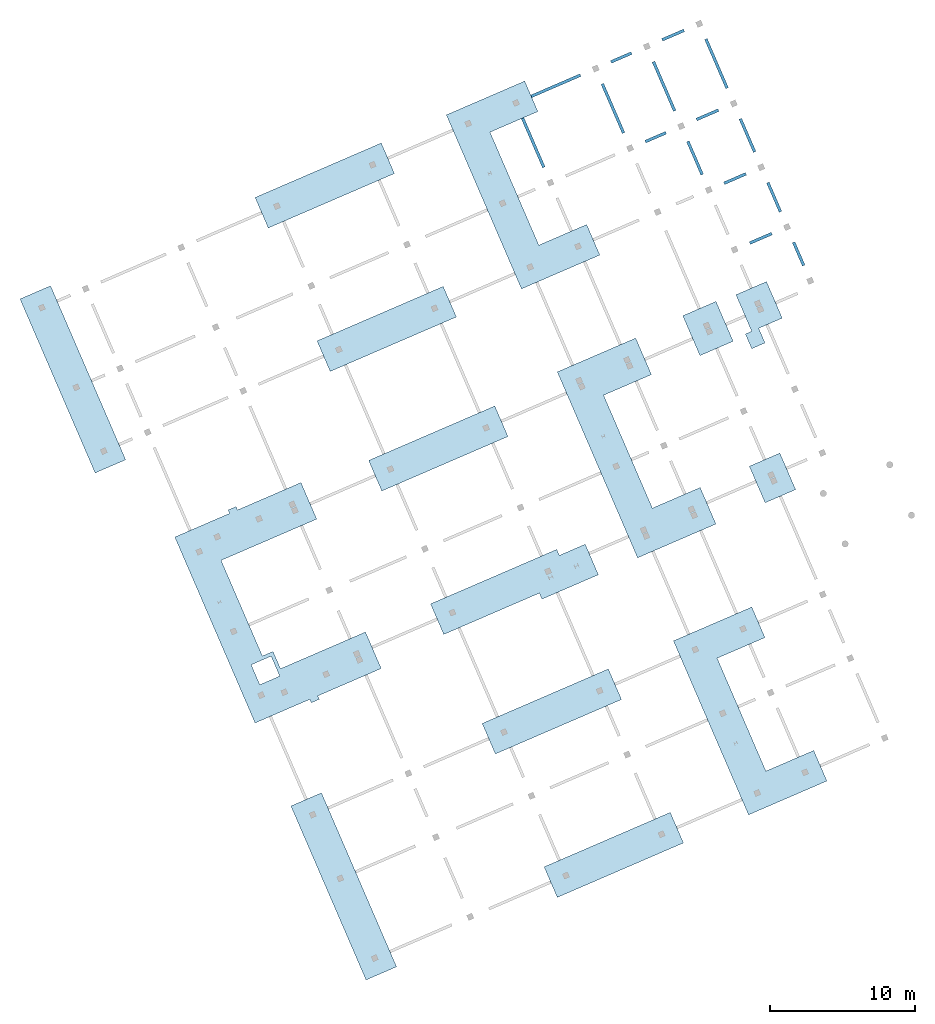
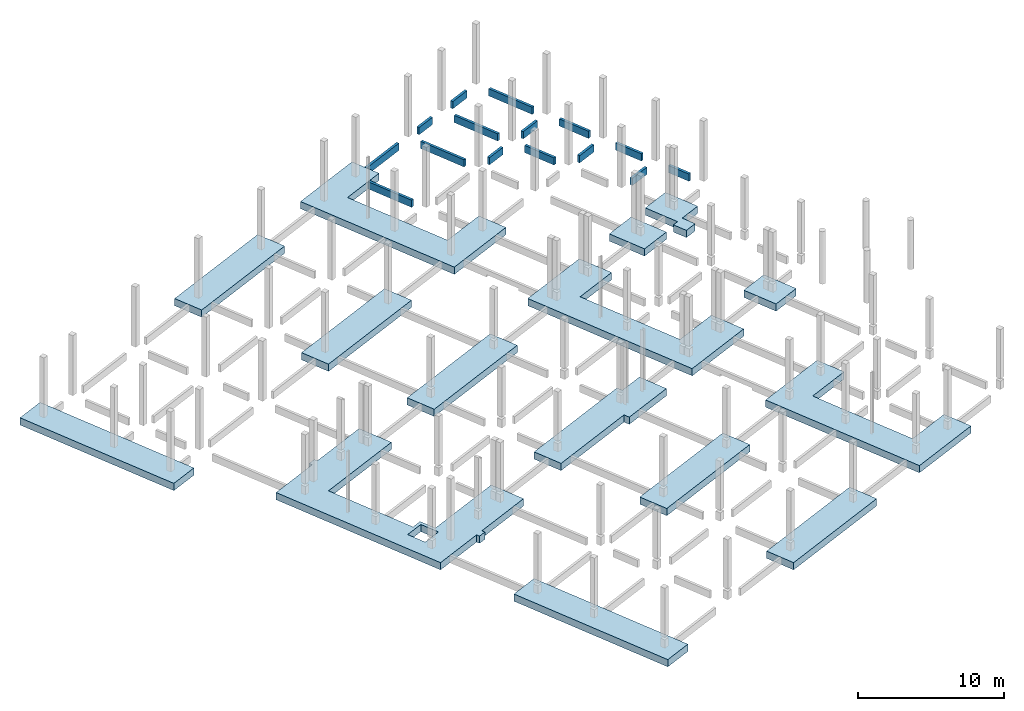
# One storey, part 11 of 11: 15 beams, 15 slabs, 1 opening.
"""IFC4 building model written with IfcOpenShell, lengths in metres."""

from ifc_helpers import new_model, entity, si_unit, converted_unit, derived_unit, direction, frame, origin, place, context, subcontext, project, spatial, indexed_curve, outline, extrude, source, transform, mapped, material, type_object, type_shapes, element, save


model = new_model("IFC4")

# Units and contexts
model_context = context("Model", 3, precision=1e-05, world=origin(), true_north=direction((6.12323399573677e-17, 1.0)))
body_context = subcontext(model_context, "Body", "Model", "MODEL_VIEW")
ifc_project = project(units=[si_unit("LENGTHUNIT", "METRE"), si_unit("AREAUNIT", "SQUARE_METRE"), si_unit("VOLUMEUNIT", "CUBIC_METRE"), converted_unit("PLANEANGLEUNIT", "DEGREE", entity("IfcPlaneAngleMeasure", 0.0174532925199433), si_unit("PLANEANGLEUNIT", "RADIAN"), dimensions=[0, 0, 0, 0, 0, 0, 0]), si_unit("MASSUNIT", "GRAM", prefix="KILO"), derived_unit("MOMENTOFINERTIAUNIT", [(si_unit("LENGTHUNIT", "METRE"), 4)]), derived_unit("LINEARFORCEUNIT", [(si_unit("MASSUNIT", "GRAM", prefix="KILO"), 1), (si_unit("TIMEUNIT", "SECOND"), -2)]), derived_unit("WARPINGCONSTANTUNIT", [(si_unit("LENGTHUNIT", "METRE"), 6)]), derived_unit("THERMALTRANSMITTANCEUNIT", [(si_unit("MASSUNIT", "GRAM", prefix="KILO"), 1), (si_unit("THERMODYNAMICTEMPERATUREUNIT", "KELVIN"), -1), (si_unit("TIMEUNIT", "SECOND"), -3)]), derived_unit("USERDEFINED", [(si_unit("MASSUNIT", "GRAM", prefix="KILO"), 1), (si_unit("TIMEUNIT", "SECOND"), -2), (si_unit("THERMODYNAMICTEMPERATUREUNIT", "KELVIN"), -1)]), derived_unit("THERMALRESISTANCEUNIT", [(si_unit("MASSUNIT", "GRAM", prefix="KILO"), -1), (si_unit("TIMEUNIT", "SECOND"), 3), (si_unit("THERMODYNAMICTEMPERATUREUNIT", "KELVIN"), 1)])], contexts=[model_context])

# Site, building, storey
site_placement = place(None, origin())
site = spatial("IfcSite", under=ifc_project, at=site_placement, Name="Default", CompositionType="ELEMENT")
building_placement = place(site_placement, frame((12.6613425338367, -82.5732315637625, 317.15), z_axis=(0.0, 0.0, 1.0), x_axis=(-0.396377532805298, 0.918087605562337, 0.0)))
building = spatial("IfcBuilding", under=site, at=building_placement, Name="CESFAM Coyhaique", CompositionType="ELEMENT")
storey_placement = place(building_placement, frame((0.0, 0.0, -0.950000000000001)))
storey = spatial("IfcBuildingStorey", under=building, at=storey_placement, Name="d_Fundaciones", CompositionType="ELEMENT", Elevation=-0.950000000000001)

# Beams
ifc_material = material(Name="HA")
beam_type_1 = type_object("IfcBeamType", Name="M_Concrete-Rectangular Beam:200 x 600mm", PredefinedType="BEAM", material=ifc_material)
shared_shape_1 = source(origin(), body_context, "Body", "SweptSolid", [
    extrude(outline(indexed_curve([(-0.3, -0.100000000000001), (0.3, -0.100000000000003), (0.3, 0.100000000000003), (-0.3, 0.100000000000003), (-0.3, -0.100000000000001)], self_intersect=False)), frame((49.7188534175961, -15.1971495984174, -1.25), z_axis=(1.0, 0.0, 0.0), x_axis=(0.0, 0.0, -1.0)), (0.0, 0.0, 1.0), 3.70437393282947),
])
type_shapes(beam_type_1, [shared_shape_1])
beam_1_placement = place(storey_placement, frame((0.0, 0.0, 0.950000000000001)))
element("IfcBeam", 1, at=beam_1_placement, inside=storey, type_object=beam_type_1, Name="M_Concrete-Rectangular Beam:200 x 600mm", ObjectType="M_Concrete-Rectangular Beam:200 x 600mm", PredefinedType="BEAM", context=body_context, shape_type="MappedRepresentation", body=[
    mapped(shared_shape_1, transform((0.0, 0.0, 0.0), scale=1.0)),
])
beam_type_2 = type_object("IfcBeamType", Name="M_Concrete-Rectangular Beam:200 x 600mm", PredefinedType="BEAM", material=ifc_material)
shared_shape_2 = source(origin(), body_context, "Body", "SweptSolid", [
    extrude(outline(indexed_curve([(-0.0999999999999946, -0.3), (0.100000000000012, -0.3), (0.100000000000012, 0.3), (-0.0999999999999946, 0.3), (-0.0999999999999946, -0.3)], self_intersect=False)), frame((54.5688534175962, -16.3471495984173, -1.25), z_axis=(0.0, -1.0, 0.0), x_axis=(-1.0, 0.0, 0.0)), (0.0, 0.0, 1.0), 3.69999999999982),
])
type_shapes(beam_type_2, [shared_shape_2])
beam_2_placement = place(storey_placement, frame((0.0, 0.0, 0.950000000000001)))
element("IfcBeam", 2, at=beam_2_placement, inside=storey, type_object=beam_type_2, Name="M_Concrete-Rectangular Beam:200 x 600mm", ObjectType="M_Concrete-Rectangular Beam:200 x 600mm", PredefinedType="BEAM", context=body_context, shape_type="MappedRepresentation", body=[
    mapped(shared_shape_2, transform((0.0, 0.0, 0.0), scale=1.0)),
])
beam_type_3 = type_object("IfcBeamType", Name="M_Concrete-Rectangular Beam:200 x 600mm", PredefinedType="BEAM", material=ifc_material)
shared_shape_3 = source(origin(), body_context, "Body", "SweptSolid", [
    extrude(outline(indexed_curve([(-0.3, -0.0999999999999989), (0.3, -0.100000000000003), (0.3, 0.100000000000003), (-0.3, 0.100000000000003), (-0.3, -0.0999999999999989)], self_intersect=False)), frame((49.7188534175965, -21.1971495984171, -1.25), z_axis=(1.0, 0.0, 0.0), x_axis=(0.0, 0.0, -1.0)), (0.0, 0.0, 1.0), 3.70000000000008),
])
type_shapes(beam_type_3, [shared_shape_3])
beam_3_placement = place(storey_placement, frame((0.0, 0.0, 0.950000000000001)))
element("IfcBeam", 3, at=beam_3_placement, inside=storey, type_object=beam_type_3, Name="M_Concrete-Rectangular Beam:200 x 600mm", ObjectType="M_Concrete-Rectangular Beam:200 x 600mm", PredefinedType="BEAM", context=body_context, shape_type="MappedRepresentation", body=[
    mapped(shared_shape_3, transform((0.0, 0.0, 0.0), scale=1.0)),
])
beam_type_4 = type_object("IfcBeamType", Name="M_Concrete-Rectangular Beam:200 x 600mm", PredefinedType="BEAM", material=ifc_material)
shared_shape_4 = source(origin(), body_context, "Body", "SweptSolid", [
    extrude(outline(indexed_curve([(-0.0999999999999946, -0.3), (0.100000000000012, -0.3), (0.100000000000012, 0.3), (-0.0999999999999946, 0.3), (-0.0999999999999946, -0.3)], self_intersect=False)), frame((48.5688534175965, -22.3471495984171, -1.25), z_axis=(0.0, -1.0, 0.0), x_axis=(-1.0, 0.0, 0.0)), (0.0, 0.0, 1.0), 1.55000000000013),
])
type_shapes(beam_type_4, [shared_shape_4])
beam_4_placement = place(storey_placement, frame((0.0, 0.0, 0.950000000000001)))
element("IfcBeam", 4, at=beam_4_placement, inside=storey, type_object=beam_type_4, Name="M_Concrete-Rectangular Beam:200 x 600mm", ObjectType="M_Concrete-Rectangular Beam:200 x 600mm", PredefinedType="BEAM", context=body_context, shape_type="MappedRepresentation", body=[
    mapped(shared_shape_4, transform((0.0, 0.0, 0.0), scale=1.0)),
])
beam_type_5 = type_object("IfcBeamType", Name="M_Concrete-Rectangular Beam:200 x 600mm", PredefinedType="BEAM", material=ifc_material)
shared_shape_5 = source(origin(), body_context, "Body", "SweptSolid", [
    extrude(outline(indexed_curve([(-0.0999999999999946, -0.3), (0.100000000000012, -0.3), (0.100000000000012, 0.3), (-0.0999999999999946, 0.3), (-0.0999999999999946, -0.3)], self_intersect=False)), frame((54.5688534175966, -22.3471495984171, -1.25), z_axis=(0.0, -1.0, 0.0), x_axis=(-1.0, 0.0, 0.0)), (0.0, 0.0, 1.0), 1.55000000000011),
])
type_shapes(beam_type_5, [shared_shape_5])
beam_5_placement = place(storey_placement, frame((0.0, 0.0, 0.950000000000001)))
element("IfcBeam", 5, at=beam_5_placement, inside=storey, type_object=beam_type_5, Name="M_Concrete-Rectangular Beam:200 x 600mm", ObjectType="M_Concrete-Rectangular Beam:200 x 600mm", PredefinedType="BEAM", context=body_context, shape_type="MappedRepresentation", body=[
    mapped(shared_shape_5, transform((0.0, 0.0, 0.0), scale=1.0)),
])
beam_type_6 = type_object("IfcBeamType", Name="M_Concrete-Rectangular Beam:200 x 600mm", PredefinedType="BEAM", material=ifc_material)
shared_shape_6 = source(origin(), body_context, "Body", "SweptSolid", [
    extrude(outline(indexed_curve([(-0.3, -0.0999999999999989), (0.3, -0.0999999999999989), (0.3, 0.100000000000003), (-0.3, 0.100000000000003), (-0.3, -0.0999999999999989)], self_intersect=False)), frame((44.9188534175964, -25.0471495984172, -1.25), z_axis=(1.0, 0.0, 0.0), x_axis=(0.0, 0.0, -1.0)), (0.0, 0.0, 1.0), 2.50000000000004),
])
type_shapes(beam_type_6, [shared_shape_6])
beam_6_placement = place(storey_placement, frame((0.0, 0.0, 0.950000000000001)))
element("IfcBeam", 6, at=beam_6_placement, inside=storey, type_object=beam_type_6, Name="M_Concrete-Rectangular Beam:200 x 600mm", ObjectType="M_Concrete-Rectangular Beam:200 x 600mm", PredefinedType="BEAM", context=body_context, shape_type="MappedRepresentation", body=[
    mapped(shared_shape_6, transform((0.0, 0.0, 0.0), scale=1.0)),
])
beam_type_7 = type_object("IfcBeamType", Name="M_Concrete-Rectangular Beam:200 x 600mm", PredefinedType="BEAM", material=ifc_material)
shared_shape_7 = source(origin(), body_context, "Body", "SweptSolid", [
    extrude(outline(indexed_curve([(-0.3, -0.0999999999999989), (0.3, -0.100000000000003), (0.3, 0.100000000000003), (-0.3, 0.100000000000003), (-0.3, -0.0999999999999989)], self_intersect=False)), frame((49.7188534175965, -25.0471495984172, -1.25), z_axis=(1.0, 0.0, 0.0), x_axis=(0.0, 0.0, -1.0)), (0.0, 0.0, 1.0), 3.70000000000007),
])
type_shapes(beam_type_7, [shared_shape_7])
beam_7_placement = place(storey_placement, frame((0.0, 0.0, 0.950000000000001)))
element("IfcBeam", 7, at=beam_7_placement, inside=storey, type_object=beam_type_7, Name="M_Concrete-Rectangular Beam:200 x 600mm", ObjectType="M_Concrete-Rectangular Beam:200 x 600mm", PredefinedType="BEAM", context=body_context, shape_type="MappedRepresentation", body=[
    mapped(shared_shape_7, transform((0.0, 0.0, 0.0), scale=1.0)),
])
beam_type_8 = type_object("IfcBeamType", Name="M_Concrete-Rectangular Beam:200 x 600mm", PredefinedType="BEAM", material=ifc_material)
shared_shape_8 = source(origin(), body_context, "Body", "SweptSolid", [
    extrude(outline(indexed_curve([(-0.100000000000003, -0.3), (0.100000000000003, -0.3), (0.100000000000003, 0.3), (-0.100000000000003, 0.3), (-0.100000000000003, -0.3)], self_intersect=False)), frame((54.5688534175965, -26.1971495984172, -1.25), z_axis=(0.0, -1.0, 0.0), x_axis=(-1.0, 0.0, 0.0)), (0.0, 0.0, 1.0), 1.65000000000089),
])
type_shapes(beam_type_8, [shared_shape_8])
beam_8_placement = place(storey_placement, frame((0.0, 0.0, 0.950000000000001)))
element("IfcBeam", 8, at=beam_8_placement, inside=storey, type_object=beam_type_8, Name="M_Concrete-Rectangular Beam:200 x 600mm", ObjectType="M_Concrete-Rectangular Beam:200 x 600mm", PredefinedType="BEAM", context=body_context, shape_type="MappedRepresentation", body=[
    mapped(shared_shape_8, transform((0.0, 0.0, 0.0), scale=1.0)),
])
beam_type_9 = type_object("IfcBeamType", Name="M_Concrete-Rectangular Beam:200 x 600mm", PredefinedType="BEAM", material=ifc_material)
shared_shape_9 = source(origin(), body_context, "Body", "SweptSolid", [
    extrude(outline(indexed_curve([(-0.0999999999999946, -0.3), (0.100000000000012, -0.3), (0.100000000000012, 0.3), (-0.0999999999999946, 0.3), (-0.0999999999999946, -0.3)], self_intersect=False)), frame((48.5688534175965, -26.1971495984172, -1.25), z_axis=(0.0, -1.0, 0.0), x_axis=(-1.0, 0.0, 0.0)), (0.0, 0.0, 1.0), 1.65000000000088),
])
type_shapes(beam_type_9, [shared_shape_9])
beam_9_placement = place(storey_placement, frame((0.0, 0.0, 0.950000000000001)))
element("IfcBeam", 9, at=beam_9_placement, inside=storey, type_object=beam_type_9, Name="M_Concrete-Rectangular Beam:200 x 600mm", ObjectType="M_Concrete-Rectangular Beam:200 x 600mm", PredefinedType="BEAM", context=body_context, shape_type="MappedRepresentation", body=[
    mapped(shared_shape_9, transform((0.0, 0.0, 0.0), scale=1.0)),
])
beam_type_10 = type_object("IfcBeamType", Name="M_Concrete-Rectangular Beam:200 x 600mm", PredefinedType="BEAM", material=ifc_material)
shared_shape_10 = source(origin(), body_context, "Body", "SweptSolid", [
    extrude(outline(indexed_curve([(-0.3, -0.0999999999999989), (0.3, -0.100000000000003), (0.3, 0.100000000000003), (-0.3, 0.100000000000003), (-0.3, -0.0999999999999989)], self_intersect=False)), frame((49.7188534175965, -28.9971495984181, -1.25), z_axis=(1.0, 0.0, 0.0), x_axis=(0.0, 0.0, -1.0)), (0.0, 0.0, 1.0), 3.70000000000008),
])
type_shapes(beam_type_10, [shared_shape_10])
beam_10_placement = place(storey_placement, frame((0.0, 0.0, 0.950000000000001)))
element("IfcBeam", 10, at=beam_10_placement, inside=storey, type_object=beam_type_10, Name="M_Concrete-Rectangular Beam:200 x 600mm", ObjectType="M_Concrete-Rectangular Beam:200 x 600mm", PredefinedType="BEAM", context=body_context, shape_type="MappedRepresentation", body=[
    mapped(shared_shape_10, transform((0.0, 0.0, 0.0), scale=1.0)),
])
beam_type_11 = type_object("IfcBeamType", Name="M_Concrete-Rectangular Beam:200 x 600mm", PredefinedType="BEAM", material=ifc_material)
shared_shape_11 = source(origin(), body_context, "Body", "SweptSolid", [
    extrude(outline(indexed_curve([(-0.0999999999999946, -0.3), (0.100000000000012, -0.3), (0.100000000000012, 0.3), (-0.0999999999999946, 0.3), (-0.0999999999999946, -0.3)], self_intersect=False)), frame((43.7688534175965, -26.1971495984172, -1.25), z_axis=(0.0, -1.0, 0.0), x_axis=(-1.0, 0.0, 0.0)), (0.0, 0.0, 1.0), 1.65000000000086),
])
type_shapes(beam_type_11, [shared_shape_11])
beam_11_placement = place(storey_placement, frame((0.0, 0.0, 0.950000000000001)))
element("IfcBeam", 11, at=beam_11_placement, inside=storey, type_object=beam_type_11, Name="M_Concrete-Rectangular Beam:200 x 600mm", ObjectType="M_Concrete-Rectangular Beam:200 x 600mm", PredefinedType="BEAM", context=body_context, shape_type="MappedRepresentation", body=[
    mapped(shared_shape_11, transform((0.0, 0.0, 0.0), scale=1.0)),
])
beam_type_12 = type_object("IfcBeamType", Name="M_Concrete-Rectangular Beam:200 x 600mm", PredefinedType="BEAM", material=ifc_material)
shared_shape_12 = source(origin(), body_context, "Body", "SweptSolid", [
    extrude(outline(indexed_curve([(-0.3, -0.0999999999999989), (0.3, -0.0999999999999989), (0.3, 0.100000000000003), (-0.3, 0.100000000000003), (-0.3, -0.0999999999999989)], self_intersect=False)), frame((44.9188534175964, -28.9971495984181, -1.25), z_axis=(1.0, 0.0, 0.0), x_axis=(0.0, 0.0, -1.0)), (0.0, 0.0, 1.0), 2.50000000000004),
])
type_shapes(beam_type_12, [shared_shape_12])
beam_12_placement = place(storey_placement, frame((0.0, 0.0, 0.950000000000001)))
element("IfcBeam", 12, at=beam_12_placement, inside=storey, type_object=beam_type_12, Name="M_Concrete-Rectangular Beam:200 x 600mm", ObjectType="M_Concrete-Rectangular Beam:200 x 600mm", PredefinedType="BEAM", context=body_context, shape_type="MappedRepresentation", body=[
    mapped(shared_shape_12, transform((0.0, 0.0, 0.0), scale=1.0)),
])
beam_type_13 = type_object("IfcBeamType", Name="M_Concrete-Rectangular Beam:200 x 600mm", PredefinedType="BEAM", material=ifc_material)
shared_shape_13 = source(origin(), body_context, "Body", "SweptSolid", [
    extrude(outline(indexed_curve([(-0.0999999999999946, -0.3), (0.100000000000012, -0.3), (0.100000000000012, 0.3), (-0.0999999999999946, 0.3), (-0.0999999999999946, -0.3)], self_intersect=False)), frame((39.2688534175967, -26.1971495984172, -1.25), z_axis=(0.0, -1.0, 0.0), x_axis=(-1.0, 0.0, 0.0)), (0.0, 0.0, 1.0), 1.65000000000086),
])
type_shapes(beam_type_13, [shared_shape_13])
beam_13_placement = place(storey_placement, frame((0.0, 0.0, 0.950000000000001)))
element("IfcBeam", 13, at=beam_13_placement, inside=storey, type_object=beam_type_13, Name="M_Concrete-Rectangular Beam:200 x 600mm", ObjectType="M_Concrete-Rectangular Beam:200 x 600mm", PredefinedType="BEAM", context=body_context, shape_type="MappedRepresentation", body=[
    mapped(shared_shape_13, transform((0.0, 0.0, 0.0), scale=1.0)),
])
beam_type_14 = type_object("IfcBeamType", Name="M_Concrete-Rectangular Beam:200 x 600mm", PredefinedType="BEAM", material=ifc_material)
shared_shape_14 = source(origin(), body_context, "Body", "SweptSolid", [
    extrude(outline(indexed_curve([(-0.3, -0.0999999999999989), (0.3, -0.100000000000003), (0.3, 0.100000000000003), (-0.3, 0.100000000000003), (-0.3, -0.0999999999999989)], self_intersect=False)), frame((36.3688534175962, -28.997149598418, -1.25), z_axis=(1.0, 0.0, 0.0), x_axis=(0.0, 0.0, -1.0)), (0.0, 0.0, 1.0), 1.7500000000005),
])
type_shapes(beam_type_14, [shared_shape_14])
beam_14_placement = place(storey_placement, frame((0.0, 0.0, 0.950000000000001)))
element("IfcBeam", 14, at=beam_14_placement, inside=storey, type_object=beam_type_14, Name="M_Concrete-Rectangular Beam:200 x 600mm", ObjectType="M_Concrete-Rectangular Beam:200 x 600mm", PredefinedType="BEAM", context=body_context, shape_type="MappedRepresentation", body=[
    mapped(shared_shape_14, transform((0.0, 0.0, 0.0), scale=1.0)),
])
beam_type_15 = type_object("IfcBeamType", Name="M_Concrete-Rectangular Beam:200 x 600mm", PredefinedType="BEAM", material=ifc_material)
shared_shape_15 = source(origin(), body_context, "Body", "SweptSolid", [
    extrude(outline(indexed_curve([(-0.3, -0.0999999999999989), (0.3, -0.100000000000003), (0.3, 0.100000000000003), (-0.3, 0.100000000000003), (-0.3, -0.0999999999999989)], self_intersect=False)), frame((40.4188534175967, -28.997149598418, -1.25), z_axis=(1.0, 0.0, 0.0), x_axis=(0.0, 0.0, -1.0)), (0.0, 0.0, 1.0), 2.19999999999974),
])
type_shapes(beam_type_15, [shared_shape_15])
beam_15_placement = place(storey_placement, frame((0.0, 0.0, 0.950000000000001)))
element("IfcBeam", 15, at=beam_15_placement, inside=storey, type_object=beam_type_15, Name="M_Concrete-Rectangular Beam:200 x 600mm", ObjectType="M_Concrete-Rectangular Beam:200 x 600mm", PredefinedType="BEAM", context=body_context, shape_type="MappedRepresentation", body=[
    mapped(shared_shape_15, transform((0.0, 0.0, 0.0), scale=1.0)),
])

# Slab
slab_type = type_object("IfcSlabType", Name="Foundation Slab:LosaFundacion 600mm", PredefinedType="BASESLAB", material=ifc_material)
slab_1_placement = place(storey_placement, origin())
element("IfcSlab", 16, at=slab_1_placement, inside=storey, type_object=slab_type, material=ifc_material, Name="Foundation Slab:LosaFundacion 600mm", ObjectType="Foundation Slab:LosaFundacion 600mm", PredefinedType="BASESLAB", context=body_context, shape_type="SweptSolid", body=[
    extrude(outline(indexed_curve([(-1.15, -6.55), (1.15, -6.55), (1.15, 6.55), (-1.15, 6.55), (-1.15, -6.55)], self_intersect=False)), frame((9.5688534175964, 17.2028504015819, 0.0), z_axis=(0.0, 0.0, -1.0), x_axis=(0.0, 1.0, 0.0)), (0.0, 0.0, 1.0), 0.6),
])

# Slab, opening
slab_2_placement = place(storey_placement, origin())
slab_2 = element("IfcSlab", 17, at=slab_2_placement, inside=storey, type_object=slab_type, material=ifc_material, Name="Foundation Slab:LosaFundacion 600mm", ObjectType="Foundation Slab:LosaFundacion 600mm", PredefinedType="BASESLAB", context=body_context, shape_type="SweptSolid", body=[
    extrude(outline(indexed_curve([(-7.19723909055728, -5.50555547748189), (6.80283681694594, -5.50555547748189), (6.80283681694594, -1.38055544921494), (7.0578548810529, -1.38055544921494), (7.0578548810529, -0.780555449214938), (6.80283681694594, -0.780555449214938), (6.80283681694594, 3.99444437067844), (4.05276090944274, 3.99444437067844), (4.05276090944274, -2.40555547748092), (2.75276090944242, -2.40555547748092), (2.75276090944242, -3.20555547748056), (-4.44723909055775, -3.20555547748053), (-4.44723909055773, 3.99444437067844), (-7.19723909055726, 3.99444437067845), (-7.19723909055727, -0.780555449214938), (-7.45233306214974, -0.780555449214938), (-7.45233306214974, -1.38055544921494), (-7.19723909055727, -1.38055544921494), (-7.19723909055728, -5.50555547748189)], self_intersect=False), holes=[indexed_curve([(3.0027609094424, -4.15555547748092), (3.0027609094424, -2.65555547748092), (4.5027609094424, -2.65555547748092), (4.5027609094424, -4.15555547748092), (3.0027609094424, -4.15555547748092)], self_intersect=False)]), frame((29.1716143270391, 12.8472947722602, -0.600000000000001), z_axis=(0.0, 0.0, 1.0), x_axis=(-1.0, 0.0, 0.0)), (0.0, 0.0, 1.0), 0.6),
])
opening_placement = place(slab_2_placement, origin())
element("IfcOpeningElement", 18, at=opening_placement, cuts=slab_2, Name="Foundation Slab:LosaFundacion 600mm", PredefinedType="OPENING", context=body_context, shape_type="SweptSolid", body=[
    extrude(outline(indexed_curve([(26.1688534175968, 17.0028502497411), (24.6688534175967, 17.0028502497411), (24.6688534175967, 15.5028502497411), (26.1688534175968, 15.5028502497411), (26.1688534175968, 17.0028502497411)], self_intersect=False)), origin(), (0.0, 0.0, -1.0), 0.6),
])

# Slabs
slab_3_placement = place(storey_placement, origin())
element("IfcSlab", 19, at=slab_3_placement, inside=storey, type_object=slab_type, material=ifc_material, Name="Foundation Slab:LosaFundacion 600mm", ObjectType="Foundation Slab:LosaFundacion 600mm", PredefinedType="BASESLAB", context=body_context, shape_type="SweptSolid", body=[
    extrude(outline(indexed_curve([(-1.15, -6.55), (1.15, -6.55), (1.15, 6.55), (-1.15, 6.55), (-1.15, -6.55)], self_intersect=False)), frame((49.1688534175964, 20.5028502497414, 0.0), z_axis=(0.0, 0.0, -1.0), x_axis=(0.0, 1.0, 0.0)), (0.0, 0.0, 1.0), 0.6),
])
slab_4_placement = place(storey_placement, origin())
element("IfcSlab", 20, at=slab_4_placement, inside=storey, type_object=slab_type, material=ifc_material, Name="Foundation Slab:LosaFundacion 600mm", ObjectType="Foundation Slab:LosaFundacion 600mm", PredefinedType="BASESLAB", context=body_context, shape_type="SweptSolid", body=[
    extrude(outline(indexed_curve([(-4.75, -1.15), (4.75, -1.15), (4.75, 1.15000000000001), (-4.75, 1.15000000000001), (-4.75, -1.15)], self_intersect=False)), frame((54.5688534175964, -0.797149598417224, 0.0), z_axis=(0.0, 0.0, -1.0), x_axis=(0.0, 1.0, 0.0)), (0.0, 0.0, 1.0), 0.6),
])
slab_5_placement = place(storey_placement, origin())
element("IfcSlab", 21, at=slab_5_placement, inside=storey, type_object=slab_type, material=ifc_material, Name="Foundation Slab:LosaFundacion 600mm", ObjectType="Foundation Slab:LosaFundacion 600mm", PredefinedType="BASESLAB", context=body_context, shape_type="SweptSolid", body=[
    extrude(outline(indexed_curve([(-4.75000000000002, -1.15), (4.75000000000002, -1.15), (4.75000000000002, 1.15), (-4.75000000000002, 1.15), (-4.75000000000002, -1.15)], self_intersect=False)), frame((43.7688534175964, -0.797149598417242, 0.0), z_axis=(0.0, 0.0, -1.0), x_axis=(0.0, 1.0, 0.0)), (0.0, 0.0, 1.0), 0.6),
])
slab_6_placement = place(storey_placement, origin())
element("IfcSlab", 22, at=slab_6_placement, inside=storey, type_object=slab_type, material=ifc_material, Name="Foundation Slab:LosaFundacion 600mm", ObjectType="Foundation Slab:LosaFundacion 600mm", PredefinedType="BASESLAB", context=body_context, shape_type="SweptSolid", body=[
    extrude(outline(indexed_curve([(-4.75, -1.15), (4.75, -1.15), (4.75, 1.15), (-4.75, 1.15), (-4.75, -1.15)], self_intersect=False)), frame((34.7688534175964, -0.797149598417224, 0.0), z_axis=(0.0, 0.0, -1.0), x_axis=(0.0, 1.0, 0.0)), (0.0, 0.0, 1.0), 0.6),
])
slab_7_placement = place(storey_placement, origin())
element("IfcSlab", 23, at=slab_7_placement, inside=storey, type_object=slab_type, material=ifc_material, Name="Foundation Slab:LosaFundacion 600mm", ObjectType="Foundation Slab:LosaFundacion 600mm", PredefinedType="BASESLAB", context=body_context, shape_type="SweptSolid", body=[
    extrude(outline(indexed_curve([(-4.4125000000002, -1.37499999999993), (-0.162500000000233, -1.37499999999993), (-0.162500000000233, -0.925000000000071), (7.03750000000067, -0.925000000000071), (7.03750000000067, 1.37499999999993), (-2.46250000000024, 1.37499999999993), (-2.46250000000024, 0.925000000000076), (-4.4125000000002, 0.925000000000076), (-4.4125000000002, -1.37499999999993)], self_intersect=False)), frame((23.7438534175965, -3.08464959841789, 0.0), z_axis=(0.0, 0.0, -1.0), x_axis=(0.0, 1.0, 0.0)), (0.0, 0.0, 1.0), 0.6),
])
slab_8_placement = place(storey_placement, origin())
element("IfcSlab", 24, at=slab_8_placement, inside=storey, type_object=slab_type, material=ifc_material, Name="Foundation Slab:LosaFundacion 600mm", ObjectType="Foundation Slab:LosaFundacion 600mm", PredefinedType="BASESLAB", context=body_context, shape_type="SweptSolid", body=[
    extrude(outline(indexed_curve([(-4.75, -1.15), (4.75, -1.15), (4.75, 1.15), (-4.75, 1.15), (-4.75, -1.15)], self_intersect=False)), frame((14.9688534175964, -0.797149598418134, 0.0), z_axis=(0.0, 0.0, -1.0), x_axis=(0.0, 1.0, 0.0)), (0.0, 0.0, 1.0), 0.6),
])
slab_9_placement = place(storey_placement, origin())
element("IfcSlab", 25, at=slab_9_placement, inside=storey, type_object=slab_type, material=ifc_material, Name="Foundation Slab:LosaFundacion 600mm", ObjectType="Foundation Slab:LosaFundacion 600mm", PredefinedType="BASESLAB", context=body_context, shape_type="SweptSolid", body=[
    extrude(outline(indexed_curve([(-4.75, -1.15), (4.75, -1.15), (4.75, 1.15), (-4.75, 1.15), (-4.75, -1.15)], self_intersect=False)), frame((4.1688534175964, -0.797149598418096, 0.0), z_axis=(0.0, 0.0, -1.0), x_axis=(0.0, 1.0, 0.0)), (0.0, 0.0, 1.0), 0.6),
])
slab_10_placement = place(storey_placement, origin())
element("IfcSlab", 26, at=slab_10_placement, inside=storey, type_object=slab_type, material=ifc_material, Name="Foundation Slab:LosaFundacion 600mm", ObjectType="Foundation Slab:LosaFundacion 600mm", PredefinedType="BASESLAB", context=body_context, shape_type="SweptSolid", body=[
    extrude(outline(indexed_curve([(-2.37500000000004, -6.55109348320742), (3.52499999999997, -6.55109348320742), (3.52499999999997, 6.54890651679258), (-2.37499999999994, 6.54890651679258), (-2.37499999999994, 4.25328044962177), (1.22500000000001, 4.25328044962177), (1.22500000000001, -4.25109348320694), (-2.37500000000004, -4.25109348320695), (-2.37500000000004, -6.55109348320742)], self_intersect=False)), frame((49.1699469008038, -13.9721495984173, 0.0), z_axis=(0.0, 0.0, -1.0), x_axis=(0.0, 1.0, 0.0)), (0.0, 0.0, 1.0), 0.6),
])
slab_11_placement = place(storey_placement, origin())
element("IfcSlab", 27, at=slab_11_placement, inside=storey, type_object=slab_type, material=ifc_material, Name="Foundation Slab:LosaFundacion 600mm", ObjectType="Foundation Slab:LosaFundacion 600mm", PredefinedType="BASESLAB", context=body_context, shape_type="SweptSolid", body=[
    extrude(outline(indexed_curve([(-2.37499999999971, -7.0), (3.5249999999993, -7.0), (3.5249999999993, 7.0), (-2.37499999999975, 7.0), (-2.37499999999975, 4.25), (1.22500000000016, 4.25), (1.22500000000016, -4.25), (-2.37499999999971, -4.25), (-2.37499999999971, -7.0)], self_intersect=False)), frame((29.3688534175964, -13.9721495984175, 0.0), z_axis=(0.0, 0.0, -1.0), x_axis=(0.0, 1.0, 0.0)), (0.0, 0.0, 1.0), 0.6),
])
slab_12_placement = place(storey_placement, origin())
element("IfcSlab", 28, at=slab_12_placement, inside=storey, type_object=slab_type, material=ifc_material, Name="Foundation Slab:LosaFundacion 600mm", ObjectType="Foundation Slab:LosaFundacion 600mm", PredefinedType="BASESLAB", context=body_context, shape_type="SweptSolid", body=[
    extrude(outline(indexed_curve([(-2.37500000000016, -6.5500000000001), (3.5249999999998, -6.5500000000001), (3.5249999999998, 6.5499999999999), (-2.37499999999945, 6.5499999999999), (-2.37499999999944, 4.25000000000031), (1.2249999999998, 4.25000000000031), (1.2249999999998, -4.2500000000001), (-2.37500000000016, -4.2500000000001), (-2.37500000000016, -6.5500000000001)], self_intersect=False)), frame((9.56885341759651, -13.9721495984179, 0.0), z_axis=(0.0, 0.0, -1.0), x_axis=(0.0, 1.0, 0.0)), (0.0, 0.0, 1.0), 0.6),
])
slab_13_placement = place(storey_placement, origin())
element("IfcSlab", 29, at=slab_13_placement, inside=storey, type_object=slab_type, material=ifc_material, Name="Foundation Slab:LosaFundacion 600mm", ObjectType="Foundation Slab:LosaFundacion 600mm", PredefinedType="BASESLAB", context=body_context, shape_type="SweptSolid", body=[
    extrude(outline(indexed_curve([(-1.25, -1.50000000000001), (1.25, -1.50000000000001), (1.25, 1.50000000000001), (-1.25, 1.50000000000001), (-1.25, -1.50000000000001)], self_intersect=False)), frame((34.9938534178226, -21.1971497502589, 0.0), z_axis=(0.0, 0.0, -1.0), x_axis=(0.0, 1.0, 0.0)), (0.0, 0.0, 1.0), 0.6),
])
slab_14_placement = place(storey_placement, origin())
element("IfcSlab", 30, at=slab_14_placement, inside=storey, type_object=slab_type, material=ifc_material, Name="Foundation Slab:LosaFundacion 600mm", ObjectType="Foundation Slab:LosaFundacion 600mm", PredefinedType="BASESLAB", context=body_context, shape_type="SweptSolid", body=[
    extrude(outline(indexed_curve([(0.0624999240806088, -1.51631868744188), (1.0624999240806, -1.51631868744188), (1.0624999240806, -0.411227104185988), (0.587500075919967, -0.411227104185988), (0.587500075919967, 2.33877289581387), (-1.71249992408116, 2.33877289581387), (-1.71249992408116, -0.411227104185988), (0.0624999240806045, -0.411227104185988), (0.0624999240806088, -1.51631868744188)], self_intersect=False)), frame((34.0300805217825, -24.4846496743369, 0.0), z_axis=(0.0, 0.0, -1.0), x_axis=(0.0, 1.0, 0.0)), (0.0, 0.0, 1.0), 0.6),
])
slab_15_placement = place(storey_placement, origin())
element("IfcSlab", 31, at=slab_15_placement, inside=storey, type_object=slab_type, material=ifc_material, Name="Foundation Slab:LosaFundacion 600mm", ObjectType="Foundation Slab:LosaFundacion 600mm", PredefinedType="BASESLAB", context=body_context, shape_type="SweptSolid", body=[
    extrude(outline(indexed_curve([(-1.15, -1.3750379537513), (1.15, -1.3750379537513), (1.15, 1.37503795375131), (-1.15, 1.37503795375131), (-1.15, -1.3750379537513)], self_intersect=False)), frame((23.7438154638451, -21.1971495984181, 0.0), z_axis=(0.0, 0.0, -1.0), x_axis=(0.0, 1.0, 0.0)), (0.0, 0.0, 1.0), 0.6),
])

save(model, "model.ifc")
